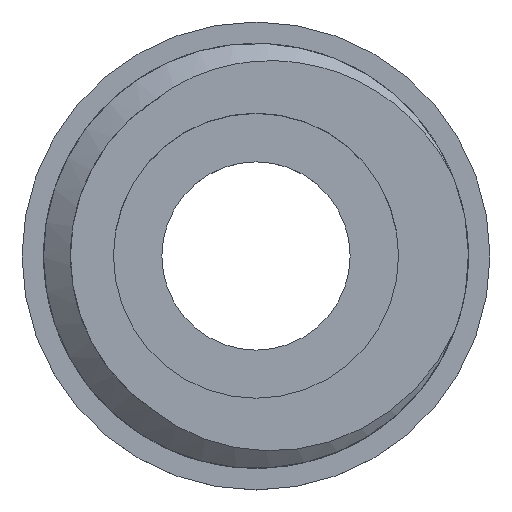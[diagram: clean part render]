
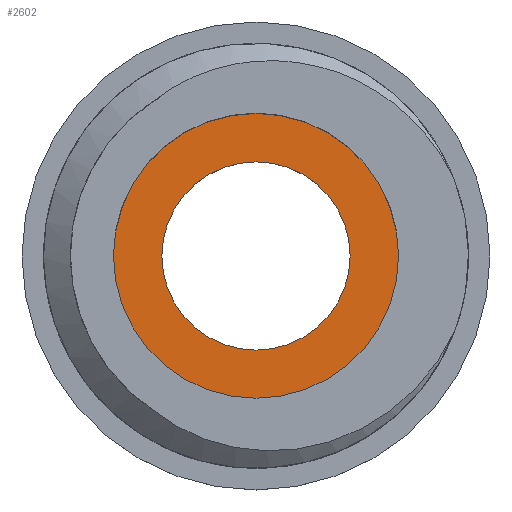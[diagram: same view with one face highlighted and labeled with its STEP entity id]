
A CAD part, top view. The second image highlights one B-rep face of the part: STEP entity #2602.
In plain terms, the highlighted planar face has unit normal (0, 0, 1).
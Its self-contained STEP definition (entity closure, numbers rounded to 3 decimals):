
#765 = CYLINDRICAL_SURFACE('',#766,1.75);
#766 = AXIS2_PLACEMENT_3D('',#767,#768,#769);
#767 = CARTESIAN_POINT('',(0.,0.,1.32));
#768 = DIRECTION('',(-0.,0.,1.));
#769 = DIRECTION('',(1.,0.,0.));
#2450 = EDGE_CURVE('',#2451,#2451,#2453,.T.);
#2451 = VERTEX_POINT('',#2452);
#2452 = CARTESIAN_POINT('',(1.75,0.,0.32));
#2453 = SURFACE_CURVE('',#2454,(#2459,#2466),.PCURVE_S1.);
#2454 = CIRCLE('',#2455,1.75);
#2455 = AXIS2_PLACEMENT_3D('',#2456,#2457,#2458);
#2456 = CARTESIAN_POINT('',(0.,0.,0.32));
#2457 = DIRECTION('',(-0.,0.,1.));
#2458 = DIRECTION('',(1.,0.,0.));
#2459 = PCURVE('',#765,#2460);
#2460 = DEFINITIONAL_REPRESENTATION('',(#2461),#2465);
#2461 = LINE('',#2462,#2463);
#2462 = CARTESIAN_POINT('',(-6.283,-1.));
#2463 = VECTOR('',#2464,1.);
#2464 = DIRECTION('',(1.,-0.));
#2465 = ( GEOMETRIC_REPRESENTATION_CONTEXT(2) 
PARAMETRIC_REPRESENTATION_CONTEXT() REPRESENTATION_CONTEXT('2D SPACE',''
  ) );
#2466 = PCURVE('',#2467,#2472);
#2467 = PLANE('',#2468);
#2468 = AXIS2_PLACEMENT_3D('',#2469,#2470,#2471);
#2469 = CARTESIAN_POINT('',(0.,0.,0.32
    ));
#2470 = DIRECTION('',(0.,0.,-1.));
#2471 = DIRECTION('',(1.,0.,0.));
#2472 = DEFINITIONAL_REPRESENTATION('',(#2473),#2481);
#2473 = ( BOUNDED_CURVE() B_SPLINE_CURVE(2,(#2474,#2475,#2476,#2477,
#2478,#2479,#2480),.UNSPECIFIED.,.T.,.F.) B_SPLINE_CURVE_WITH_KNOTS((1,2
    ,2,2,2,1),(-2.094,0.,2.094,4.189,
6.283,8.378),.UNSPECIFIED.) CURVE() 
GEOMETRIC_REPRESENTATION_ITEM() RATIONAL_B_SPLINE_CURVE((1.,0.5,1.,0.5,
1.,0.5,1.)) REPRESENTATION_ITEM('') );
#2474 = CARTESIAN_POINT('',(1.75,0.));
#2475 = CARTESIAN_POINT('',(1.75,-3.031));
#2476 = CARTESIAN_POINT('',(-0.875,-1.516));
#2477 = CARTESIAN_POINT('',(-3.5,0.));
#2478 = CARTESIAN_POINT('',(-0.875,1.516));
#2479 = CARTESIAN_POINT('',(1.75,3.031));
#2480 = CARTESIAN_POINT('',(1.75,0.));
#2481 = ( GEOMETRIC_REPRESENTATION_CONTEXT(2) 
PARAMETRIC_REPRESENTATION_CONTEXT() REPRESENTATION_CONTEXT('2D SPACE',''
  ) );
#2591 = CYLINDRICAL_SURFACE('',#2592,2.65);
#2592 = AXIS2_PLACEMENT_3D('',#2593,#2594,#2595);
#2593 = CARTESIAN_POINT('',(0.,0.,4.12));
#2594 = DIRECTION('',(-0.,0.,1.));
#2595 = DIRECTION('',(1.,0.,0.));
#2602 = ADVANCED_FACE('',(#2603,#2633),#2467,.F.);
#2603 = FACE_BOUND('',#2604,.F.);
#2604 = EDGE_LOOP('',(#2605));
#2605 = ORIENTED_EDGE('',*,*,#2606,.F.);
#2606 = EDGE_CURVE('',#2607,#2607,#2609,.T.);
#2607 = VERTEX_POINT('',#2608);
#2608 = CARTESIAN_POINT('',(2.65,0.,0.32));
#2609 = SURFACE_CURVE('',#2610,(#2615,#2626),.PCURVE_S1.);
#2610 = CIRCLE('',#2611,2.65);
#2611 = AXIS2_PLACEMENT_3D('',#2612,#2613,#2614);
#2612 = CARTESIAN_POINT('',(0.,0.,0.32));
#2613 = DIRECTION('',(-0.,0.,1.));
#2614 = DIRECTION('',(1.,0.,0.));
#2615 = PCURVE('',#2467,#2616);
#2616 = DEFINITIONAL_REPRESENTATION('',(#2617),#2625);
#2617 = ( BOUNDED_CURVE() B_SPLINE_CURVE(2,(#2618,#2619,#2620,#2621,
#2622,#2623,#2624),.UNSPECIFIED.,.T.,.F.) B_SPLINE_CURVE_WITH_KNOTS((1,2
    ,2,2,2,1),(-2.094,0.,2.094,4.189,
6.283,8.378),.UNSPECIFIED.) CURVE() 
GEOMETRIC_REPRESENTATION_ITEM() RATIONAL_B_SPLINE_CURVE((1.,0.5,1.,0.5,
1.,0.5,1.)) REPRESENTATION_ITEM('') );
#2618 = CARTESIAN_POINT('',(2.65,0.));
#2619 = CARTESIAN_POINT('',(2.65,-4.59));
#2620 = CARTESIAN_POINT('',(-1.325,-2.295));
#2621 = CARTESIAN_POINT('',(-5.3,0.));
#2622 = CARTESIAN_POINT('',(-1.325,2.295));
#2623 = CARTESIAN_POINT('',(2.65,4.59));
#2624 = CARTESIAN_POINT('',(2.65,0.));
#2625 = ( GEOMETRIC_REPRESENTATION_CONTEXT(2) 
PARAMETRIC_REPRESENTATION_CONTEXT() REPRESENTATION_CONTEXT('2D SPACE',''
  ) );
#2626 = PCURVE('',#2591,#2627);
#2627 = DEFINITIONAL_REPRESENTATION('',(#2628),#2632);
#2628 = LINE('',#2629,#2630);
#2629 = CARTESIAN_POINT('',(-6.283,-3.8));
#2630 = VECTOR('',#2631,1.);
#2631 = DIRECTION('',(1.,-0.));
#2632 = ( GEOMETRIC_REPRESENTATION_CONTEXT(2) 
PARAMETRIC_REPRESENTATION_CONTEXT() REPRESENTATION_CONTEXT('2D SPACE',''
  ) );
#2633 = FACE_BOUND('',#2634,.F.);
#2634 = EDGE_LOOP('',(#2635));
#2635 = ORIENTED_EDGE('',*,*,#2450,.T.);
